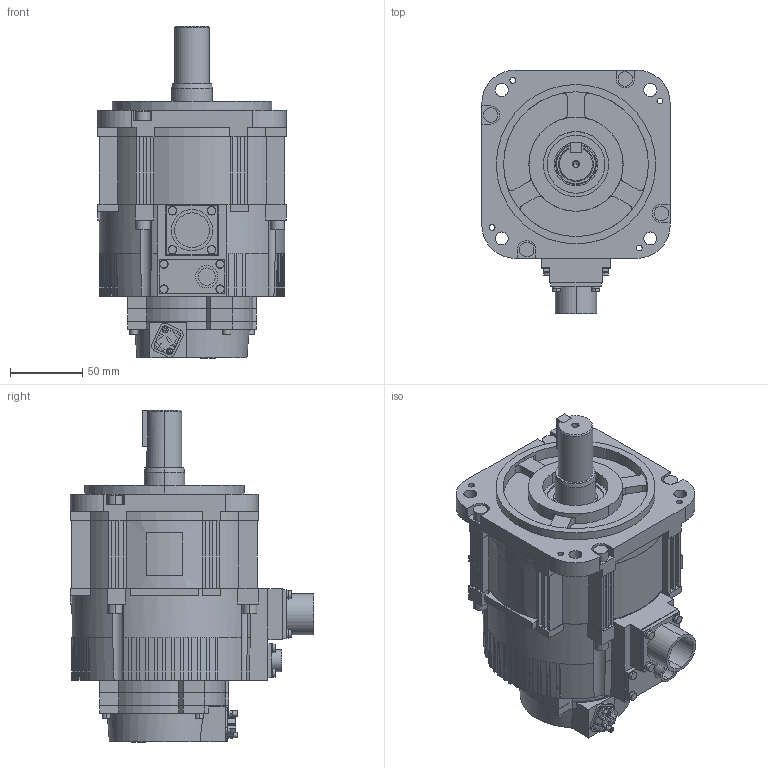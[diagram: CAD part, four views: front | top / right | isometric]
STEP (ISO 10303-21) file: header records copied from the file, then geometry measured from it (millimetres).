
FILE_DESCRIPTION( (''), '2;1');
FILE_NAME ('sgmxg_09aua6ca1.stp','2024-03-08T11:12:31',(''),(''),'spGate 15.6.6','','');
FILE_SCHEMA (('AUTOMOTIVE_DESIGN'));
Length unit declared in the file: millimetre
Products named in the file (3): Assembly; sgmxg_09aua6ca1-prt0; sgmxg_09aua6ca1-prt1
Assembly tree (2 placements, depth 2):
  Assembly
    sgmxg_09aua6ca1-prt0
    sgmxg_09aua6ca1-prt1
Bounding box: 130 x 168.2 x 229.2 mm (x, y, z)
Volume: 2059025.6 mm3; surface area: 145409.3 mm2
Topology: 2 solids, 2 shells, 762 faces, 2069 edges, 1371 vertices
Faces by surface type: plane 508, cylinder 208, bspline 46
Entity records: 40518 total; most frequent: CARTESIAN_POINT 4907, ORIENTED_EDGE 4134, DIRECTION 3902, COLOUR_RGB 2831, PRESENTATION_STYLE_ASSIGNMENT 2831, STYLED_ITEM 2831, EDGE_CURVE 2067, DRAUGHTING_PRE_DEFINED_CURVE_FONT 2067
